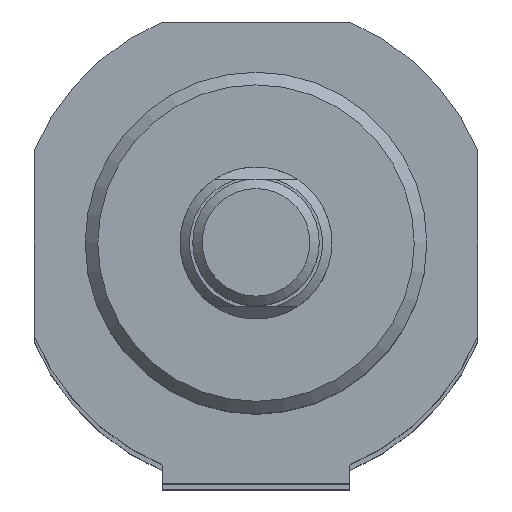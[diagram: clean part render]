
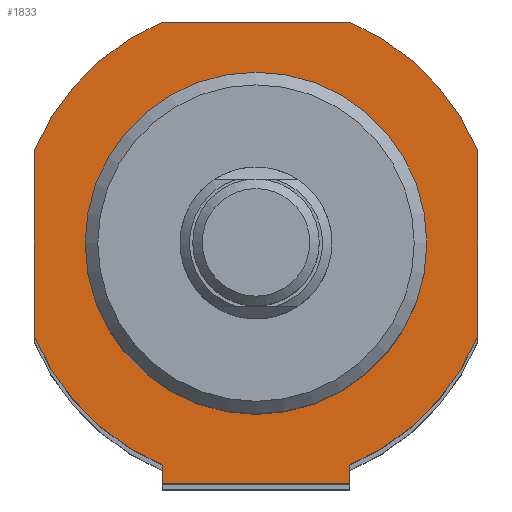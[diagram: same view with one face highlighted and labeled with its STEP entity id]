
A CAD part, top view. The second image highlights one B-rep face of the part: STEP entity #1833.
In plain terms, the highlighted planar face has unit normal (0, 0, 1).
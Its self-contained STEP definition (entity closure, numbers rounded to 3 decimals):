
#898=CARTESIAN_POINT('',(7.399,-19.0,299.));
#899=VERTEX_POINT('',#898);
#900=CARTESIAN_POINT('',(-7.399,-19.0,299.));
#901=VERTEX_POINT('',#900);
#902=CARTESIAN_POINT('',(7.399,-19.0,299.));
#903=DIRECTION('',(-1.0,0.0,0.0));
#904=VECTOR('',#903,14.799);
#905=LINE('',#902,#904);
#906=EDGE_CURVE('',#899,#901,#905,.T.);
#1054=CARTESIAN_POINT('',(-7.399,-17.5,299.));
#1055=VERTEX_POINT('',#1054);
#1069=CARTESIAN_POINT('',(-7.399,-17.5,299.));
#1070=DIRECTION('',(0.0,-1.0,0.0));
#1071=VECTOR('',#1070,1.5);
#1072=LINE('',#1069,#1071);
#1073=EDGE_CURVE('',#1055,#901,#1072,.T.);
#1085=CARTESIAN_POINT('',(7.399,-17.5,299.));
#1086=VERTEX_POINT('',#1085);
#1093=CARTESIAN_POINT('',(7.399,-17.5,299.));
#1094=DIRECTION('',(0.0,-1.0,0.0));
#1095=VECTOR('',#1094,1.5);
#1096=LINE('',#1093,#1095);
#1097=EDGE_CURVE('',#1086,#899,#1096,.T.);
#1561=CARTESIAN_POINT('',(13.5,0.,299.));
#1562=VERTEX_POINT('',#1561);
#1563=CARTESIAN_POINT('',(0.,0.,299.));
#1564=DIRECTION('',(0.0,0.0,-1.0));
#1565=DIRECTION('',(-1.0,0.0,0.0));
#1566=AXIS2_PLACEMENT_3D('',#1563,#1564,#1565);
#1567=CIRCLE('',#1566,13.5);
#1568=EDGE_CURVE('',#1562,#1562,#1567,.T.);
#1653=CARTESIAN_POINT('',(-7.399,17.5,299.));
#1654=VERTEX_POINT('',#1653);
#1655=CARTESIAN_POINT('',(7.399,17.5,299.));
#1656=VERTEX_POINT('',#1655);
#1657=CARTESIAN_POINT('',(-7.399,17.5,299.));
#1658=DIRECTION('',(1.0,0.0,0.0));
#1659=VECTOR('',#1658,14.799);
#1660=LINE('',#1657,#1659);
#1661=EDGE_CURVE('',#1654,#1656,#1660,.T.);
#1684=CARTESIAN_POINT('',(17.5,7.399,299.));
#1685=VERTEX_POINT('',#1684);
#1686=CARTESIAN_POINT('',(0.,0.,299.0));
#1687=DIRECTION('',(0.,0.,-1.0));
#1688=DIRECTION('',(0.921,0.389,0.));
#1689=AXIS2_PLACEMENT_3D('',#1686,#1687,#1688);
#1690=CIRCLE('',#1689,19.0);
#1691=EDGE_CURVE('',#1656,#1685,#1690,.T.);
#1709=CARTESIAN_POINT('',(17.5,-7.399,299.));
#1710=VERTEX_POINT('',#1709);
#1711=CARTESIAN_POINT('',(17.5,7.399,299.));
#1712=DIRECTION('',(0.0,-1.0,0.0));
#1713=VECTOR('',#1712,14.799);
#1714=LINE('',#1711,#1713);
#1715=EDGE_CURVE('',#1685,#1710,#1714,.T.);
#1733=CARTESIAN_POINT('',(0.,0.,299.0));
#1734=DIRECTION('',(0.,0.,-1.));
#1735=DIRECTION('',(0.389,-0.921,0.));
#1736=AXIS2_PLACEMENT_3D('',#1733,#1734,#1735);
#1737=CIRCLE('',#1736,19.0);
#1738=EDGE_CURVE('',#1710,#1086,#1737,.T.);
#1751=CARTESIAN_POINT('',(-17.5,-7.399,299.));
#1752=VERTEX_POINT('',#1751);
#1753=CARTESIAN_POINT('',(0.,0.,299.0));
#1754=DIRECTION('',(0.,0.,-1.0));
#1755=DIRECTION('',(-0.921,-0.389,0.));
#1756=AXIS2_PLACEMENT_3D('',#1753,#1754,#1755);
#1757=CIRCLE('',#1756,19.0);
#1758=EDGE_CURVE('',#1055,#1752,#1757,.T.);
#1776=CARTESIAN_POINT('',(-17.5,7.399,299.));
#1777=VERTEX_POINT('',#1776);
#1778=CARTESIAN_POINT('',(-17.5,-7.399,299.));
#1779=DIRECTION('',(0.0,1.0,0.0));
#1780=VECTOR('',#1779,14.799);
#1781=LINE('',#1778,#1780);
#1782=EDGE_CURVE('',#1752,#1777,#1781,.T.);
#1800=CARTESIAN_POINT('',(0.,0.,299.0));
#1801=DIRECTION('',(0.,0.,-1.));
#1802=DIRECTION('',(-0.389,0.921,0.));
#1803=AXIS2_PLACEMENT_3D('',#1800,#1801,#1802);
#1804=CIRCLE('',#1803,19.0);
#1805=EDGE_CURVE('',#1777,#1654,#1804,.T.);
#1813=CARTESIAN_POINT('',(0.,0.,299.));
#1814=DIRECTION('',(0.0,0.0,1.0));
#1815=DIRECTION('',(1.0,0.0,0.0));
#1816=AXIS2_PLACEMENT_3D('',#1813,#1814,#1815);
#1817=PLANE('',#1816);
#1818=ORIENTED_EDGE('',*,*,#1661,.F.);
#1819=ORIENTED_EDGE('',*,*,#1805,.F.);
#1820=ORIENTED_EDGE('',*,*,#1782,.F.);
#1821=ORIENTED_EDGE('',*,*,#1758,.F.);
#1822=ORIENTED_EDGE('',*,*,#1073,.T.);
#1823=ORIENTED_EDGE('',*,*,#906,.F.);
#1824=ORIENTED_EDGE('',*,*,#1097,.F.);
#1825=ORIENTED_EDGE('',*,*,#1738,.F.);
#1826=ORIENTED_EDGE('',*,*,#1715,.F.);
#1827=ORIENTED_EDGE('',*,*,#1691,.F.);
#1828=EDGE_LOOP('',(#1818,#1819,#1820,#1821,#1822,#1823,#1824,#1825,#1826,#1827));
#1829=FACE_OUTER_BOUND('',#1828,.T.);
#1830=ORIENTED_EDGE('',*,*,#1568,.T.);
#1831=EDGE_LOOP('',(#1830));
#1832=FACE_BOUND('',#1831,.T.);
#1833=ADVANCED_FACE('',(#1829,#1832),#1817,.T.);
